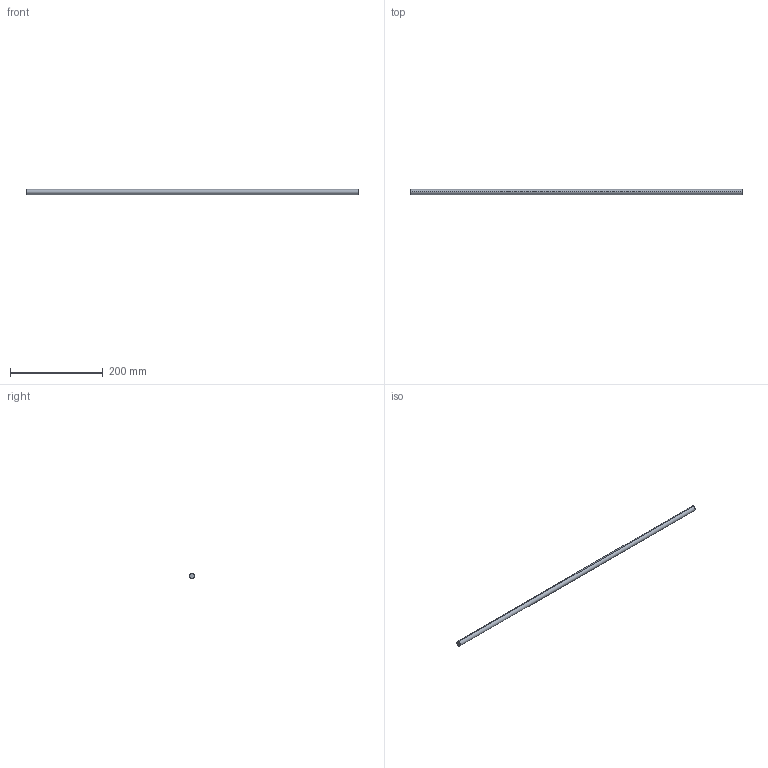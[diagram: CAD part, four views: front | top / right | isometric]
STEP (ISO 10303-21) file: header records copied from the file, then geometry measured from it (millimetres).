
FILE_DESCRIPTION (( 'STEP AP214' ), '1' );
FILE_NAME ('Querreling_Frontblende_Innenlade_KS-16_KAB-800.step', '2010-09-22T15:05:30', ( 'grass' ), ( '' ), 'SwSTEP 2.0', 'SolidWorks 2010', '' );
FILE_SCHEMA (( 'AUTOMOTIVE_DESIGN' ));
Length unit declared in the file: millimetre
Products named in the file (1): Querreling_Frontblende_Innenlade_KS-16_KAB-800
Bounding box: 715 x 11 x 11 mm (x, y, z)
Volume: 67948.7 mm3; surface area: 24898.7 mm2
Topology: 1 solids, 1 shells, 4 faces, 6 edges, 4 vertices
Faces by surface type: cylinder 2, plane 2
Entity records: 128 total; most frequent: DIRECTION 20, CARTESIAN_POINT 15, ORIENTED_EDGE 12, AXIS2_PLACEMENT_3D 9, EDGE_CURVE 6, EDGE_LOOP 4, FACE_OUTER_BOUND 4, CIRCLE 4
